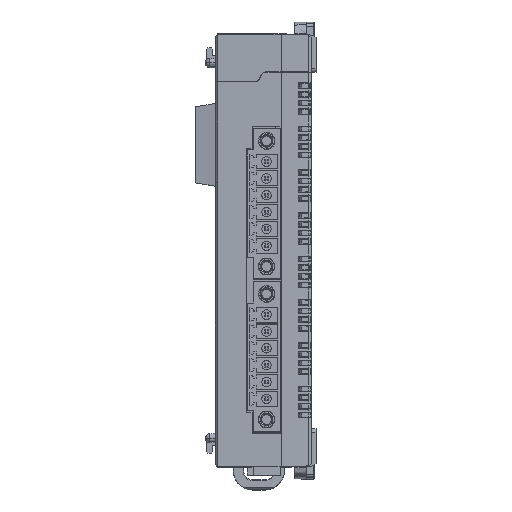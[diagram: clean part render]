
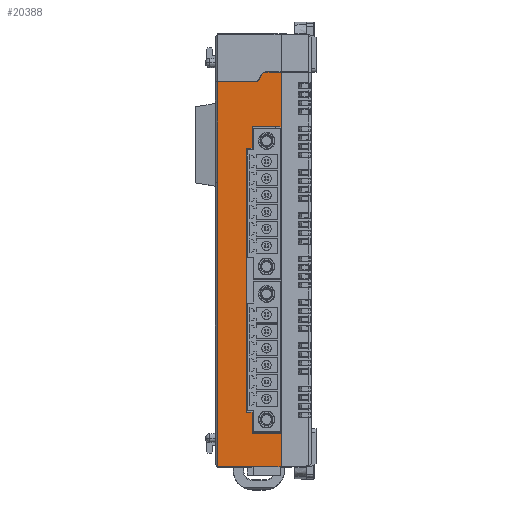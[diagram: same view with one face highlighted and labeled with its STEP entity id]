
A CAD part, top view. The second image highlights one B-rep face of the part: STEP entity #20388.
In plain terms, the highlighted planar face has unit normal (0, 0, 1).
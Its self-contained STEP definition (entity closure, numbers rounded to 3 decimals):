
#2488 = EDGE_CURVE ( 'NONE', #75724, #112728, #92251, .T. ) ;
#3681 = CIRCLE ( 'NONE', #32452, 1. ) ;
#5405 = AXIS2_PLACEMENT_3D ( 'NONE', #78021, #77250, #24901 ) ;
#5617 = DIRECTION ( 'NONE',  ( 0., -1., 0. ) ) ;
#6188 = ORIENTED_EDGE ( 'NONE', *, *, #73944, .T. ) ;
#7878 = VERTEX_POINT ( 'NONE', #108807 ) ;
#7886 = LINE ( 'NONE', #90500, #41435 ) ;
#8248 = DIRECTION ( 'NONE',  ( 0., -1., 0. ) ) ;
#8656 = CARTESIAN_POINT ( 'NONE',  ( -5.432, 35., 30. ) ) ;
#8930 = VECTOR ( 'NONE', #43803, 1000. ) ;
#9408 = EDGE_CURVE ( 'NONE', #75724, #40825, #3681, .T. ) ;
#10315 = ORIENTED_EDGE ( 'NONE', *, *, #36835, .F. ) ;
#10925 = EDGE_CURVE ( 'NONE', #107062, #94134, #115202, .T. ) ;
#12481 = VECTOR ( 'NONE', #8248, 1000. ) ;
#12944 = CARTESIAN_POINT ( 'NONE',  ( 0., 37., 30. ) ) ;
#13161 = EDGE_CURVE ( 'NONE', #19107, #69555, #74804, .T. ) ;
#14467 = AXIS2_PLACEMENT_3D ( 'NONE', #86365, #14472, #24252 ) ;
#14472 = DIRECTION ( 'NONE',  ( 0., 0., 1. ) ) ;
#15498 = CARTESIAN_POINT ( 'NONE',  ( 0., 25.7, 30. ) ) ;
#15744 = CARTESIAN_POINT ( 'NONE',  ( 0., 45., 30. ) ) ;
#16771 = DIRECTION ( 'NONE',  ( 1., 0., 0. ) ) ;
#17117 = EDGE_CURVE ( 'NONE', #7878, #108683, #36241, .T. ) ;
#19107 = VERTEX_POINT ( 'NONE', #57723 ) ;
#20388 = ADVANCED_FACE ( 'NONE', ( #112986 ), #69155, .T. ) ;
#21455 = ORIENTED_EDGE ( 'NONE', *, *, #68743, .F. ) ;
#21759 = CARTESIAN_POINT ( 'NONE',  ( -13.2, -45., 30. ) ) ;
#21781 = ORIENTED_EDGE ( 'NONE', *, *, #35842, .T. ) ;
#23136 = EDGE_CURVE ( 'NONE', #113553, #107062, #29766, .T. ) ;
#24252 = DIRECTION ( 'NONE',  ( 0., -1., 0. ) ) ;
#24901 = DIRECTION ( 'NONE',  ( 0., -1., 0. ) ) ;
#24931 = VECTOR ( 'NONE', #49876, 1000. ) ;
#25840 = ORIENTED_EDGE ( 'NONE', *, *, #66043, .F. ) ;
#26134 = VECTOR ( 'NONE', #16771, 1000. ) ;
#26698 = VERTEX_POINT ( 'NONE', #21759 ) ;
#26745 = VERTEX_POINT ( 'NONE', #58041 ) ;
#26988 = CARTESIAN_POINT ( 'NONE',  ( -13.2, -45., 30. ) ) ;
#27092 = LINE ( 'NONE', #26988, #8930 ) ;
#28720 = ORIENTED_EDGE ( 'NONE', *, *, #92385, .F. ) ;
#29766 = LINE ( 'NONE', #75549, #64724 ) ;
#30227 = ORIENTED_EDGE ( 'NONE', *, *, #10925, .F. ) ;
#30858 = CARTESIAN_POINT ( 'NONE',  ( -13.2, 35., 30. ) ) ;
#31051 = CARTESIAN_POINT ( 'NONE',  ( -4.855, 35., 30. ) ) ;
#31244 = ORIENTED_EDGE ( 'NONE', *, *, #13161, .F. ) ;
#32452 = AXIS2_PLACEMENT_3D ( 'NONE', #46910, #98930, #99299 ) ;
#33985 = VECTOR ( 'NONE', #65665, 1000. ) ;
#34312 = CARTESIAN_POINT ( 'NONE',  ( -3.7, 37., 30. ) ) ;
#35842 = EDGE_CURVE ( 'NONE', #26698, #94134, #80623, .T. ) ;
#35962 = CARTESIAN_POINT ( 'NONE',  ( -7.2, 11.6, 30. ) ) ;
#36241 = LINE ( 'NONE', #35962, #12481 ) ;
#36835 = EDGE_CURVE ( 'NONE', #85741, #19107, #64330, .T. ) ;
#38104 = ORIENTED_EDGE ( 'NONE', *, *, #9408, .T. ) ;
#38150 = CARTESIAN_POINT ( 'NONE',  ( 0., -38.1, 30. ) ) ;
#39920 = DIRECTION ( 'NONE',  ( 1., 0., 0. ) ) ;
#40047 = DIRECTION ( 'NONE',  ( 1., 0., 0. ) ) ;
#40059 = CARTESIAN_POINT ( 'NONE',  ( -7.2, -33.6, 30. ) ) ;
#40825 = VERTEX_POINT ( 'NONE', #62161 ) ;
#41435 = VECTOR ( 'NONE', #109589, 1000. ) ;
#42065 = VECTOR ( 'NONE', #60608, 1000. ) ;
#43803 = DIRECTION ( 'NONE',  ( 0., -1., 0. ) ) ;
#43854 = ORIENTED_EDGE ( 'NONE', *, *, #2488, .F. ) ;
#44481 = VERTEX_POINT ( 'NONE', #8656 ) ;
#46789 = CARTESIAN_POINT ( 'NONE',  ( -3.123, 37., 30. ) ) ;
#46910 = CARTESIAN_POINT ( 'NONE',  ( -3.123, 36., 30. ) ) ;
#48977 = DIRECTION ( 'NONE',  ( 1., 0., 0. ) ) ;
#49876 = DIRECTION ( 'NONE',  ( 1., 0., 0. ) ) ;
#51138 = EDGE_CURVE ( 'NONE', #26745, #113553, #89867, .T. ) ;
#54296 = LINE ( 'NONE', #112389, #24931 ) ;
#55320 = VECTOR ( 'NONE', #70210, 1000. ) ;
#57216 = VERTEX_POINT ( 'NONE', #30858 ) ;
#57723 = CARTESIAN_POINT ( 'NONE',  ( -6., 25.7, 30. ) ) ;
#58041 = CARTESIAN_POINT ( 'NONE',  ( -6., -33.6, 30. ) ) ;
#58890 = EDGE_CURVE ( 'NONE', #69555, #7878, #72020, .T. ) ;
#60558 = ORIENTED_EDGE ( 'NONE', *, *, #23136, .F. ) ;
#60608 = DIRECTION ( 'NONE',  ( -1., 0., 0. ) ) ;
#61279 = CARTESIAN_POINT ( 'NONE',  ( -13.7, -45., 30. ) ) ;
#61511 = LINE ( 'NONE', #31051, #110497 ) ;
#62161 = CARTESIAN_POINT ( 'NONE',  ( -3.989, 36.5, 30. ) ) ;
#63408 = VECTOR ( 'NONE', #5617, 1000. ) ;
#64330 = LINE ( 'NONE', #115299, #42065 ) ;
#64724 = VECTOR ( 'NONE', #40047, 1000. ) ;
#64859 = CARTESIAN_POINT ( 'NONE',  ( -6., -38.1, 30. ) ) ;
#65177 = EDGE_LOOP ( 'NONE', ( #87076, #74873, #31244, #10315, #86023, #43854, #38104, #21455, #6188, #25840, #90783, #21781, #30227, #60558, #65655, #28720 ) ) ;
#65283 = CARTESIAN_POINT ( 'NONE',  ( -6., -33.6, 30. ) ) ;
#65655 = ORIENTED_EDGE ( 'NONE', *, *, #51138, .F. ) ;
#65665 = DIRECTION ( 'NONE',  ( 0., -1., 0. ) ) ;
#66043 = EDGE_CURVE ( 'NONE', #57216, #44481, #61511, .T. ) ;
#67875 = VERTEX_POINT ( 'NONE', #73485 ) ;
#68524 = VECTOR ( 'NONE', #39920, 1000. ) ;
#68743 = EDGE_CURVE ( 'NONE', #67875, #40825, #89613, .T. ) ;
#69155 = PLANE ( 'NONE',  #14467 ) ;
#69463 = DIRECTION ( 'NONE',  ( 0.5, 0.866, 0. ) ) ;
#69555 = VERTEX_POINT ( 'NONE', #84692 ) ;
#70210 = DIRECTION ( 'NONE',  ( 0., -1., 0. ) ) ;
#72020 = LINE ( 'NONE', #81180, #74799 ) ;
#72203 = DIRECTION ( 'NONE',  ( -1., 0., 0. ) ) ;
#73485 = CARTESIAN_POINT ( 'NONE',  ( -4.566, 35.5, 30. ) ) ;
#73944 = EDGE_CURVE ( 'NONE', #67875, #44481, #97951, .T. ) ;
#74799 = VECTOR ( 'NONE', #72203, 1000. ) ;
#74804 = LINE ( 'NONE', #96818, #55320 ) ;
#74873 = ORIENTED_EDGE ( 'NONE', *, *, #58890, .F. ) ;
#75549 = CARTESIAN_POINT ( 'NONE',  ( -6., -38.1, 30. ) ) ;
#75724 = VERTEX_POINT ( 'NONE', #46789 ) ;
#77250 = DIRECTION ( 'NONE',  ( 0., 0., -1. ) ) ;
#78021 = CARTESIAN_POINT ( 'NONE',  ( -5.432, 36., 30. ) ) ;
#80623 = LINE ( 'NONE', #61279, #26134 ) ;
#81180 = CARTESIAN_POINT ( 'NONE',  ( -6., 21.2, 30. ) ) ;
#81215 = VECTOR ( 'NONE', #69463, 1000. ) ;
#84692 = CARTESIAN_POINT ( 'NONE',  ( -6., 21.2, 30. ) ) ;
#85741 = VERTEX_POINT ( 'NONE', #15498 ) ;
#86023 = ORIENTED_EDGE ( 'NONE', *, *, #90988, .F. ) ;
#86365 = CARTESIAN_POINT ( 'NONE',  ( -13.7, 45., 30. ) ) ;
#87076 = ORIENTED_EDGE ( 'NONE', *, *, #17117, .F. ) ;
#89613 = LINE ( 'NONE', #34312, #81215 ) ;
#89867 = LINE ( 'NONE', #65283, #33985 ) ;
#90500 = CARTESIAN_POINT ( 'NONE',  ( 0., 45., 30. ) ) ;
#90783 = ORIENTED_EDGE ( 'NONE', *, *, #105398, .T. ) ;
#90988 = EDGE_CURVE ( 'NONE', #112728, #85741, #7886, .T. ) ;
#92251 = LINE ( 'NONE', #12944, #68524 ) ;
#92385 = EDGE_CURVE ( 'NONE', #108683, #26745, #54296, .T. ) ;
#94134 = VERTEX_POINT ( 'NONE', #109685 ) ;
#94687 = CARTESIAN_POINT ( 'NONE',  ( 0., 37., 30. ) ) ;
#96818 = CARTESIAN_POINT ( 'NONE',  ( -6., 21.2, 30. ) ) ;
#97951 = CIRCLE ( 'NONE', #5405, 1. ) ;
#98930 = DIRECTION ( 'NONE',  ( 0., 0., 1. ) ) ;
#99299 = DIRECTION ( 'NONE',  ( 0., -1., 0. ) ) ;
#105398 = EDGE_CURVE ( 'NONE', #57216, #26698, #27092, .T. ) ;
#107062 = VERTEX_POINT ( 'NONE', #38150 ) ;
#108683 = VERTEX_POINT ( 'NONE', #40059 ) ;
#108807 = CARTESIAN_POINT ( 'NONE',  ( -7.2, 21.2, 30. ) ) ;
#109589 = DIRECTION ( 'NONE',  ( 0., -1., 0. ) ) ;
#109685 = CARTESIAN_POINT ( 'NONE',  ( 0., -45., 30. ) ) ;
#110497 = VECTOR ( 'NONE', #48977, 1000. ) ;
#112389 = CARTESIAN_POINT ( 'NONE',  ( -7.2, -33.6, 30. ) ) ;
#112728 = VERTEX_POINT ( 'NONE', #94687 ) ;
#112986 = FACE_OUTER_BOUND ( 'NONE', #65177, .T. ) ;
#113553 = VERTEX_POINT ( 'NONE', #64859 ) ;
#115202 = LINE ( 'NONE', #15744, #63408 ) ;
#115299 = CARTESIAN_POINT ( 'NONE',  ( -6., 25.7, 30. ) ) ;
